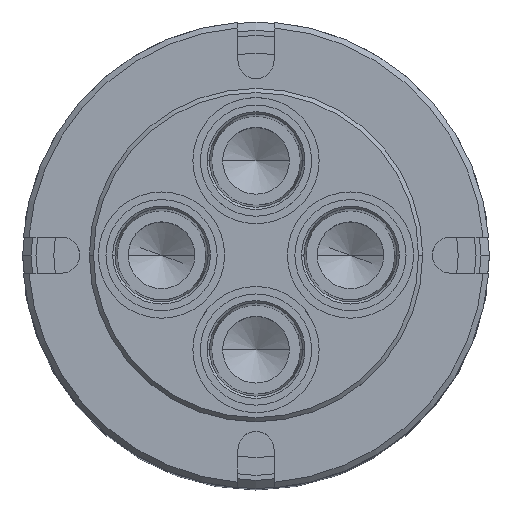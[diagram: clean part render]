
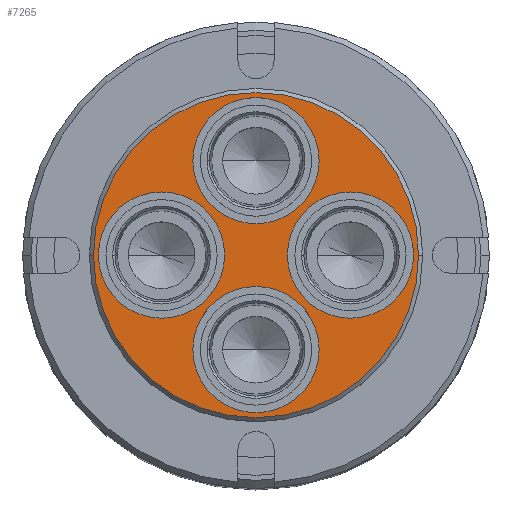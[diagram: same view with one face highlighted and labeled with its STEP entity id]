
A CAD part, top view. The second image highlights one B-rep face of the part: STEP entity #7265.
In plain terms, the highlighted planar face has unit normal (0, 0, 1).
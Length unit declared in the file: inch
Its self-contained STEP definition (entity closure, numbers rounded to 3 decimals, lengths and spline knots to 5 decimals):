
#57 = CIRCLE ( 'NONE', #350, 0.71 ) ;
#104 = CIRCLE ( 'NONE', #165, 0.71 ) ;
#165 = AXIS2_PLACEMENT_3D ( 'NONE', #3565, #3566, #3567 ) ;
#186 = CIRCLE ( 'NONE', #426, 0.71 ) ;
#272 = AXIS2_PLACEMENT_3D ( 'NONE', #1285, #1286, #1287 ) ;
#278 = AXIS2_PLACEMENT_3D ( 'NONE', #1462, #1465, #1466 ) ;
#318 = CIRCLE ( 'NONE', #272, 1.828 ) ;
#350 = AXIS2_PLACEMENT_3D ( 'NONE', #4051, #4052, #4053 ) ;
#426 = AXIS2_PLACEMENT_3D ( 'NONE', #3871, #3872, #3873 ) ;
#1285 = CARTESIAN_POINT ( 'NONE',  ( 0., 0., 0. ) ) ;
#1286 = DIRECTION ( 'NONE',  ( 0., 0., 1. ) ) ;
#1287 = DIRECTION ( 'NONE',  ( -1., 0., 0. ) ) ;
#1456 = FACE_OUTER_BOUND ( 'NONE', #6610, .T. ) ;
#1457 = FACE_BOUND ( 'NONE', #6626, .T. ) ;
#1458 = PLANE ( 'NONE',  #278 ) ;
#1459 = FACE_BOUND ( 'NONE', #6646, .T. ) ;
#1461 = FACE_BOUND ( 'NONE', #6654, .T. ) ;
#1462 = CARTESIAN_POINT ( 'NONE',  ( 0., 0., 0. ) ) ;
#1463 = FACE_BOUND ( 'NONE', #6632, .T. ) ;
#1465 = DIRECTION ( 'NONE',  ( 0., 0., -1. ) ) ;
#1466 = DIRECTION ( 'NONE',  ( -1., 0., 0. ) ) ;
#2280 = CIRCLE ( 'NONE', #2716, 0.71 ) ;
#2284 = AXIS2_PLACEMENT_3D ( 'NONE', #5257, #5258, #5259 ) ;
#2289 = AXIS2_PLACEMENT_3D ( 'NONE', #4103, #4104, #4105 ) ;
#2397 = CIRCLE ( 'NONE', #2691, 0.71 ) ;
#2405 = AXIS2_PLACEMENT_3D ( 'NONE', #4743, #4744, #4745 ) ;
#2441 = AXIS2_PLACEMENT_3D ( 'NONE', #4913, #4914, #4915 ) ;
#2451 = CIRCLE ( 'NONE', #2441, 0.71 ) ;
#2461 = CIRCLE ( 'NONE', #2405, 0.71 ) ;
#2512 = CIRCLE ( 'NONE', #2289, 0.71 ) ;
#2617 = CIRCLE ( 'NONE', #2284, 1.828 ) ;
#2691 = AXIS2_PLACEMENT_3D ( 'NONE', #4595, #4596, #4597 ) ;
#2716 = AXIS2_PLACEMENT_3D ( 'NONE', #4886, #4887, #4888 ) ;
#3226 = ORIENTED_EDGE ( 'NONE', *, *, #6951, .T. ) ;
#3227 = ORIENTED_EDGE ( 'NONE', *, *, #7239, .T. ) ;
#3228 = ORIENTED_EDGE ( 'NONE', *, *, #7122, .F. ) ;
#3229 = ORIENTED_EDGE ( 'NONE', *, *, #7222, .F. ) ;
#3230 = ORIENTED_EDGE ( 'NONE', *, *, #7088, .F. ) ;
#3231 = ORIENTED_EDGE ( 'NONE', *, *, #6861, .F. ) ;
#3232 = ORIENTED_EDGE ( 'NONE', *, *, #7060, .F. ) ;
#3233 = ORIENTED_EDGE ( 'NONE', *, *, #7097, .F. ) ;
#3234 = ORIENTED_EDGE ( 'NONE', *, *, #7029, .F. ) ;
#3235 = ORIENTED_EDGE ( 'NONE', *, *, #7187, .F. ) ;
#3565 = CARTESIAN_POINT ( 'NONE',  ( 0., 1.0625, 0. ) ) ;
#3566 = DIRECTION ( 'NONE',  ( 0., 0., 1. ) ) ;
#3567 = DIRECTION ( 'NONE',  ( 1., 0., 0. ) ) ;
#3871 = CARTESIAN_POINT ( 'NONE',  ( -1.0625, 0., 0. ) ) ;
#3872 = DIRECTION ( 'NONE',  ( 0., 0., 1. ) ) ;
#3873 = DIRECTION ( 'NONE',  ( 0., 1., 0. ) ) ;
#4051 = CARTESIAN_POINT ( 'NONE',  ( 0., 1.0625, 0. ) ) ;
#4052 = DIRECTION ( 'NONE',  ( 0., 0., 1. ) ) ;
#4053 = DIRECTION ( 'NONE',  ( 1., 0., 0. ) ) ;
#4103 = CARTESIAN_POINT ( 'NONE',  ( 1.0625, 0., 0. ) ) ;
#4104 = DIRECTION ( 'NONE',  ( 0., 0., 1. ) ) ;
#4105 = DIRECTION ( 'NONE',  ( 0., -1., 0. ) ) ;
#4595 = CARTESIAN_POINT ( 'NONE',  ( -1.0625, 0., 0. ) ) ;
#4596 = DIRECTION ( 'NONE',  ( 0., 0., 1. ) ) ;
#4597 = DIRECTION ( 'NONE',  ( 0., 1., 0. ) ) ;
#4743 = CARTESIAN_POINT ( 'NONE',  ( 0., -1.0625, 0. ) ) ;
#4744 = DIRECTION ( 'NONE',  ( 0., 0., 1. ) ) ;
#4745 = DIRECTION ( 'NONE',  ( -1., 0., 0. ) ) ;
#4886 = CARTESIAN_POINT ( 'NONE',  ( 1.0625, 0., 0. ) ) ;
#4887 = DIRECTION ( 'NONE',  ( 0., 0., 1. ) ) ;
#4888 = DIRECTION ( 'NONE',  ( 0., -1., 0. ) ) ;
#4913 = CARTESIAN_POINT ( 'NONE',  ( 0., -1.0625, 0. ) ) ;
#4914 = DIRECTION ( 'NONE',  ( 0., 0., 1. ) ) ;
#4915 = DIRECTION ( 'NONE',  ( -1., 0., 0. ) ) ;
#5257 = CARTESIAN_POINT ( 'NONE',  ( 0., 0., 0. ) ) ;
#5258 = DIRECTION ( 'NONE',  ( 0., 0., 1. ) ) ;
#5259 = DIRECTION ( 'NONE',  ( -1., 0., 0. ) ) ;
#5849 = CARTESIAN_POINT ( 'NONE',  ( -0.71, -1.0625, 0. ) ) ;
#5852 = CARTESIAN_POINT ( 'NONE',  ( 0.71, -1.0625, 0. ) ) ;
#5988 = VERTEX_POINT ( 'NONE', #5849 ) ;
#5994 = VERTEX_POINT ( 'NONE', #5852 ) ;
#5993 = CARTESIAN_POINT ( 'NONE',  ( 0.71, 1.0625, 0. ) ) ;
#5995 = CARTESIAN_POINT ( 'NONE',  ( -0.71, 1.0625, 0. ) ) ;
#5997 = CARTESIAN_POINT ( 'NONE',  ( 1.828, 0., 0. ) ) ;
#5999 = CARTESIAN_POINT ( 'NONE',  ( -1.828, 0., 0. ) ) ;
#6021 = CARTESIAN_POINT ( 'NONE',  ( 1.7725, 0., 0. ) ) ;
#6025 = CARTESIAN_POINT ( 'NONE',  ( 0.3525, 0., 0. ) ) ;
#6057 = CARTESIAN_POINT ( 'NONE',  ( -0.3525, 0., 0. ) ) ;
#6069 = CARTESIAN_POINT ( 'NONE',  ( -1.7725, 0., 0. ) ) ;
#6186 = VERTEX_POINT ( 'NONE', #5993 ) ;
#6188 = VERTEX_POINT ( 'NONE', #5995 ) ;
#6190 = VERTEX_POINT ( 'NONE', #5997 ) ;
#6192 = VERTEX_POINT ( 'NONE', #5999 ) ;
#6214 = VERTEX_POINT ( 'NONE', #6021 ) ;
#6218 = VERTEX_POINT ( 'NONE', #6025 ) ;
#6250 = VERTEX_POINT ( 'NONE', #6057 ) ;
#6262 = VERTEX_POINT ( 'NONE', #6069 ) ;
#6610 = EDGE_LOOP ( 'NONE', ( #3227, #3226 ) ) ;
#6626 = EDGE_LOOP ( 'NONE', ( #3235, #3234 ) ) ;
#6632 = EDGE_LOOP ( 'NONE', ( #3229, #3228 ) ) ;
#6646 = EDGE_LOOP ( 'NONE', ( #3233, #3232 ) ) ;
#6654 = EDGE_LOOP ( 'NONE', ( #3231, #3230 ) ) ;
#6861 = EDGE_CURVE ( 'NONE', #6214, #6218, #2512, .T. ) ;
#6951 = EDGE_CURVE ( 'NONE', #6190, #6192, #2617, .T. ) ;
#7029 = EDGE_CURVE ( 'NONE', #6262, #6250, #2397, .T. ) ;
#7060 = EDGE_CURVE ( 'NONE', #5988, #5994, #2461, .T. ) ;
#7088 = EDGE_CURVE ( 'NONE', #6218, #6214, #2280, .T. ) ;
#7097 = EDGE_CURVE ( 'NONE', #5994, #5988, #2451, .T. ) ;
#7122 = EDGE_CURVE ( 'NONE', #6188, #6186, #104, .T. ) ;
#7187 = EDGE_CURVE ( 'NONE', #6250, #6262, #186, .T. ) ;
#7222 = EDGE_CURVE ( 'NONE', #6186, #6188, #57, .T. ) ;
#7239 = EDGE_CURVE ( 'NONE', #6192, #6190, #318, .T. ) ;
#7265 = ADVANCED_FACE ( 'NONE', ( #1457, #1459, #1461, #1463, #1456 ), #1458, .F. ) ;
